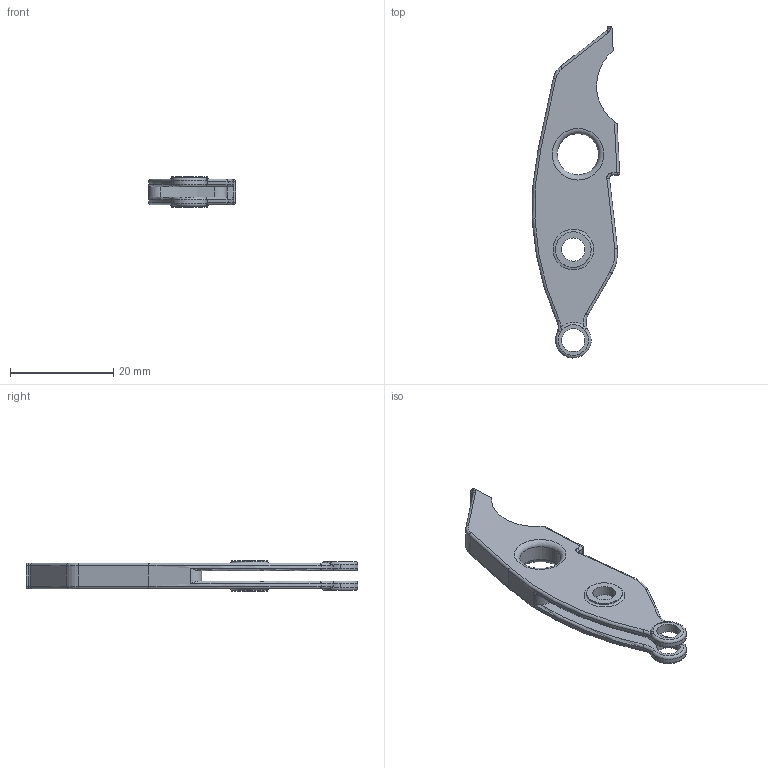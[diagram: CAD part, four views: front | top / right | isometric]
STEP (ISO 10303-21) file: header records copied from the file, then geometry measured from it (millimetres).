
FILE_DESCRIPTION(/* description */ (''),/* implementation_level */ '2;1');
FILE_NAME(/* name */ '1.stp',/* time_stamp */ '2026-08-07T11:38:35+08:00',/* author */ (''),/* organization */ (''),/* preprocessor_version */ 'ST-DEVELOPER v16.7',/* originating_system */ 'SIEMENS PLM Software NX 12.0',/* authorisation */ '');
FILE_SCHEMA (('AUTOMOTIVE_DESIGN { 1 0 10303 214 3 1 1 1 }'));
Length unit declared in the file: millimetre
Products named in the file (1): 1
Bounding box: 16.93 x 64.43 x 6 mm (x, y, z)
Volume: 2588 mm3; surface area: 2718.3 mm2
Topology: 1 solids, 1 shells, 100 faces, 239 edges, 141 vertices
Faces by surface type: cylinder 44, torus 30, plane 18, bspline 6, sphere 2
Full cylindrical faces by diameter (mm): 4.5 x4, 6.9 x2, 8 x1
Entity records: 3161 total; most frequent: CARTESIAN_POINT 784, DIRECTION 541, ORIENTED_EDGE 468, EDGE_CURVE 234, AXIS2_PLACEMENT_3D 232, VERTEX_POINT 141, CIRCLE 135, EDGE_LOOP 115
